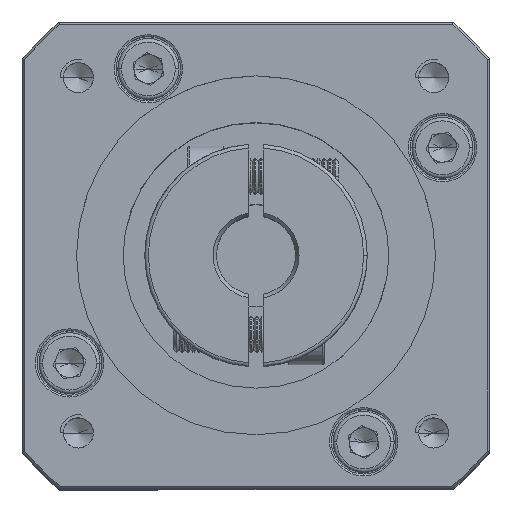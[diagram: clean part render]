
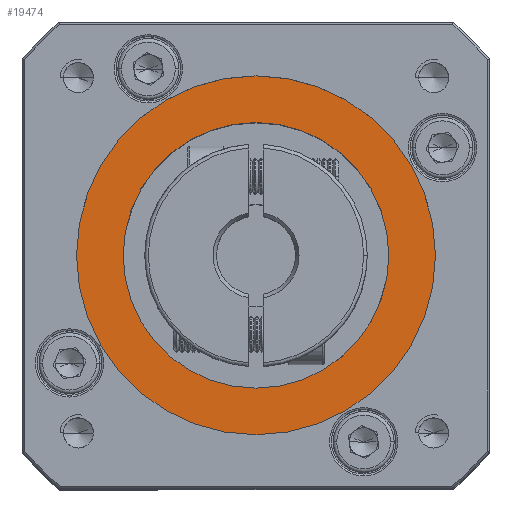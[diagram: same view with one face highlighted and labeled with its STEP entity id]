
A CAD part, top view. The second image highlights one B-rep face of the part: STEP entity #19474.
In plain terms, the highlighted planar face has unit normal (0, 0, 1).
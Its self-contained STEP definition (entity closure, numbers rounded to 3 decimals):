
#3822 = ORIENTED_EDGE ( 'NONE', *, *, #112619, .T. ) ;
#4248 = CARTESIAN_POINT ( 'NONE',  ( -15.169, 13.968, -3.341 ) ) ;
#10826 = FACE_OUTER_BOUND ( 'NONE', #44055, .T. ) ;
#15193 = CARTESIAN_POINT ( 'NONE',  ( -33.669, 13.968, -3.341 ) ) ;
#15287 = ORIENTED_EDGE ( 'NONE', *, *, #24696, .T. ) ;
#15657 = DIRECTION ( 'NONE',  ( 1., 0., 0. ) ) ;
#17315 = CARTESIAN_POINT ( 'NONE',  ( -8.669, 13.968, -3.341 ) ) ;
#19474 = ADVANCED_FACE ( 'NONE', ( #10826, #22449 ), #81798, .T. ) ;
#19531 = CARTESIAN_POINT ( 'NONE',  ( -33.669, 13.968, -3.341 ) ) ;
#22449 = FACE_BOUND ( 'NONE', #84468, .T. ) ;
#24696 = EDGE_CURVE ( 'NONE', #119193, #30477, #53817, .T. ) ;
#26543 = AXIS2_PLACEMENT_3D ( 'NONE', #37873, #55734, #28513 ) ;
#27343 = CIRCLE ( 'NONE', #28573, 18.5 ) ;
#28513 = DIRECTION ( 'NONE',  ( 1., 0., 0. ) ) ;
#28573 = AXIS2_PLACEMENT_3D ( 'NONE', #19531, #102267, #54907 ) ;
#30305 = ORIENTED_EDGE ( 'NONE', *, *, #102259, .T. ) ;
#30477 = VERTEX_POINT ( 'NONE', #17315 ) ;
#37873 = CARTESIAN_POINT ( 'NONE',  ( -33.669, 13.968, -3.341 ) ) ;
#38503 = AXIS2_PLACEMENT_3D ( 'NONE', #15193, #117797, #62298 ) ;
#44055 = EDGE_LOOP ( 'NONE', ( #30305, #15287 ) ) ;
#46548 = DIRECTION ( 'NONE',  ( 0., 0., -1. ) ) ;
#47294 = VERTEX_POINT ( 'NONE', #4248 ) ;
#50540 = CIRCLE ( 'NONE', #94993, 18.5 ) ;
#53078 = DIRECTION ( 'NONE',  ( 0., 0., 1. ) ) ;
#53817 = CIRCLE ( 'NONE', #26543, 25. ) ;
#54907 = DIRECTION ( 'NONE',  ( 1., 0., 0. ) ) ;
#55734 = DIRECTION ( 'NONE',  ( 0., 0., 1. ) ) ;
#62298 = DIRECTION ( 'NONE',  ( 1., 0., 0. ) ) ;
#63573 = CARTESIAN_POINT ( 'NONE',  ( -33.669, 13.968, -3.341 ) ) ;
#65182 = CARTESIAN_POINT ( 'NONE',  ( -33.669, 13.968, -3.341 ) ) ;
#67166 = AXIS2_PLACEMENT_3D ( 'NONE', #63573, #53078, #15657 ) ;
#71770 = EDGE_CURVE ( 'NONE', #47294, #116563, #27343, .T. ) ;
#74552 = ORIENTED_EDGE ( 'NONE', *, *, #71770, .T. ) ;
#81798 = PLANE ( 'NONE',  #67166 ) ;
#83831 = DIRECTION ( 'NONE',  ( 1., 0., 0. ) ) ;
#84468 = EDGE_LOOP ( 'NONE', ( #74552, #3822 ) ) ;
#87161 = CARTESIAN_POINT ( 'NONE',  ( -52.169, 13.968, -3.341 ) ) ;
#94993 = AXIS2_PLACEMENT_3D ( 'NONE', #65182, #46548, #83831 ) ;
#102259 = EDGE_CURVE ( 'NONE', #30477, #119193, #117311, .T. ) ;
#102267 = DIRECTION ( 'NONE',  ( 0., 0., -1. ) ) ;
#112619 = EDGE_CURVE ( 'NONE', #116563, #47294, #50540, .T. ) ;
#116563 = VERTEX_POINT ( 'NONE', #87161 ) ;
#117311 = CIRCLE ( 'NONE', #38503, 25. ) ;
#117797 = DIRECTION ( 'NONE',  ( 0., 0., 1. ) ) ;
#119193 = VERTEX_POINT ( 'NONE', #119762 ) ;
#119762 = CARTESIAN_POINT ( 'NONE',  ( -58.669, 13.968, -3.341 ) ) ;
